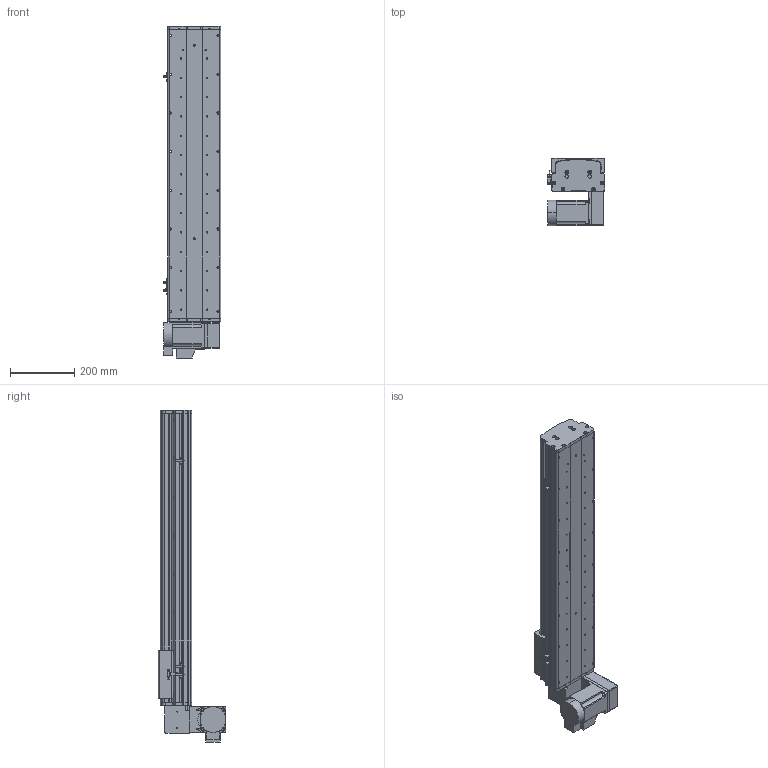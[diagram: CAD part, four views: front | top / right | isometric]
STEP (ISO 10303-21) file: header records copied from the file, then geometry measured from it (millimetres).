
FILE_DESCRIPTION (( 'STEP AP214' ), '1' );
FILE_NAME ('KSD165B-S650-MRD-CM .STEP', '2017-10-16T09:25:10', ( '微软用户' ), ( '微软中国' ), 'SwSTEP 2.0', 'SolidWorks 2014', '' );
FILE_SCHEMA (( 'AUTOMOTIVE_DESIGN' ));
Length unit declared in the file: millimetre
Products named in the file (17): KSD165模组同步带底板-650行程-最新; 拸秶雄ん750W侜督萇儂; 165宽马达安装板同步带右; U倰嫖萇假蚾璃; U倰嫖萇EEㄜSX672; 覜茼え68遵圉猾敕; KSD165模组-同步带-防撞垫2; KSD165模组同步带-防撞垫1; KSD165耀郪-ヶ傷啣1-肮祭湍; KSD165模组-后端板1-同步带; KSD165模组-同步带滑动座-最新版; KSD165B-S650-MRD-CM  ; 130宽模组马达安装板连板上下折丝杆同步带; 130宽模组保护罩上下左右折-同步带; HTPA26S5M250-A-H8 750W萇儂蚚; HTPA26S5M250-A-H8 400W萇儂蚚 ; KSD165模组-同步带防尘盖1-650行程-最新版
Assembly tree (20 placements, depth 2):
  KSD165B-S650-MRD-CM  
    KSD165模组-同步带滑动座-最新版
    KSD165模组-后端板1-同步带
    KSD165耀郪-ヶ傷啣1-肮祭湍
    KSD165模组同步带-防撞垫1
    KSD165模组-同步带-防撞垫2
    覜茼え68遵圉猾敕
    U倰嫖萇EEㄜSX672  x3
    U倰嫖萇假蚾璃  x3
    165宽马达安装板同步带右
    拸秶雄ん750W侜督萇儂
    KSD165模组同步带底板-650行程-最新
    KSD165模组-同步带防尘盖1-650行程-最新版
    HTPA26S5M250-A-H8 400W萇儂蚚 
    HTPA26S5M250-A-H8 750W萇儂蚚
    130宽模组保护罩上下左右折-同步带
    130宽模组马达安装板连板上下折丝杆同步带
Bounding box: 178.7 x 210 x 1030.5 mm (x, y, z)
Volume: 6337461.6 mm3; surface area: 1468673.1 mm2
Topology: 21 solids, 21 shells, 1921 faces, 5418 edges, 3536 vertices
Faces by surface type: cylinder 1227, plane 582, cone 112
Entity records: 62012 total; most frequent: CARTESIAN_POINT 12712, DIRECTION 10222, ORIENTED_EDGE 9496, EDGE_CURVE 4748, AXIS2_PLACEMENT_3D 4004, VERTEX_POINT 3128, CIRCLE 2280, VECTOR 2214
